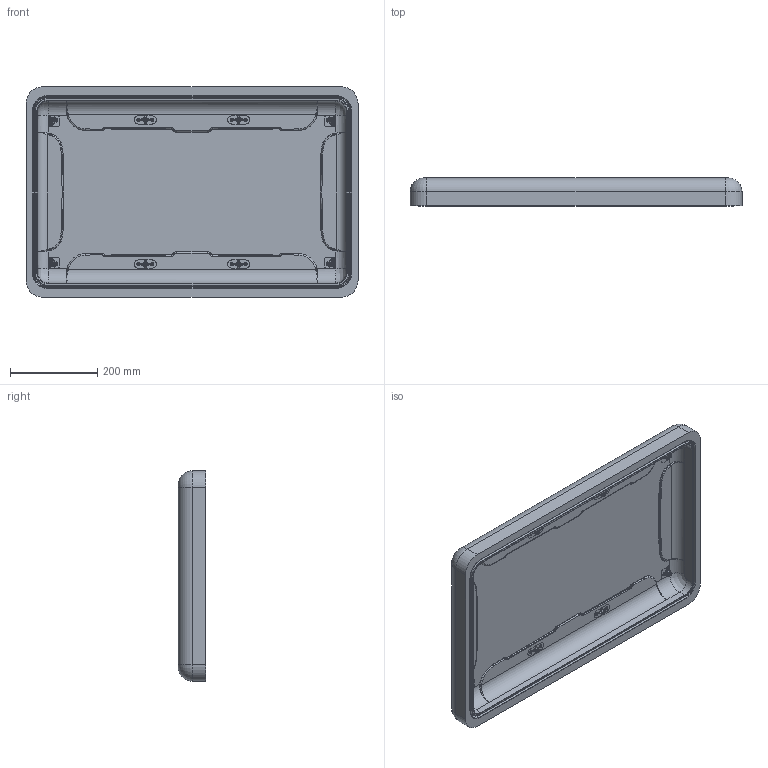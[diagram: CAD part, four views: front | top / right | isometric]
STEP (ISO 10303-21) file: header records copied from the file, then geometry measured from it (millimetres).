
FILE_DESCRIPTION (( 'STEP AP203' ), '1' );
FILE_NAME ('NANUK_962_Top Shell_INNER SURFS_Steps.STEP', '2023-01-24T16:33:33', ( 'Sylvain' ), ( '' ), 'SwSTEP 2.0', 'SolidWorks 2022', '' );
FILE_SCHEMA (( 'CONFIG_CONTROL_DESIGN' ));
Length unit declared in the file: inch
Products named in the file (1): NANUK_962_Top Shell_INNER SURFS_Steps
Bounding box: 762 x 63.5 x 482.6 mm (x, y, z)
Volume: 8988939.7 mm3; surface area: 971885.7 mm2
Topology: 1 solids, 1 shells, 1642 faces, 3968 edges, 2260 vertices
Faces by surface type: bspline 659, plane 427, cylinder 312, torus 128, sphere 64, cone 52
Entity records: 80276 total; most frequent: CARTESIAN_POINT 47381, ORIENTED_EDGE 7608, DIRECTION 5594, EDGE_CURVE 3804, VERTEX_POINT 2260, AXIS2_PLACEMENT_3D 2058, EDGE_LOOP 1738, FACE_OUTER_BOUND 1642
